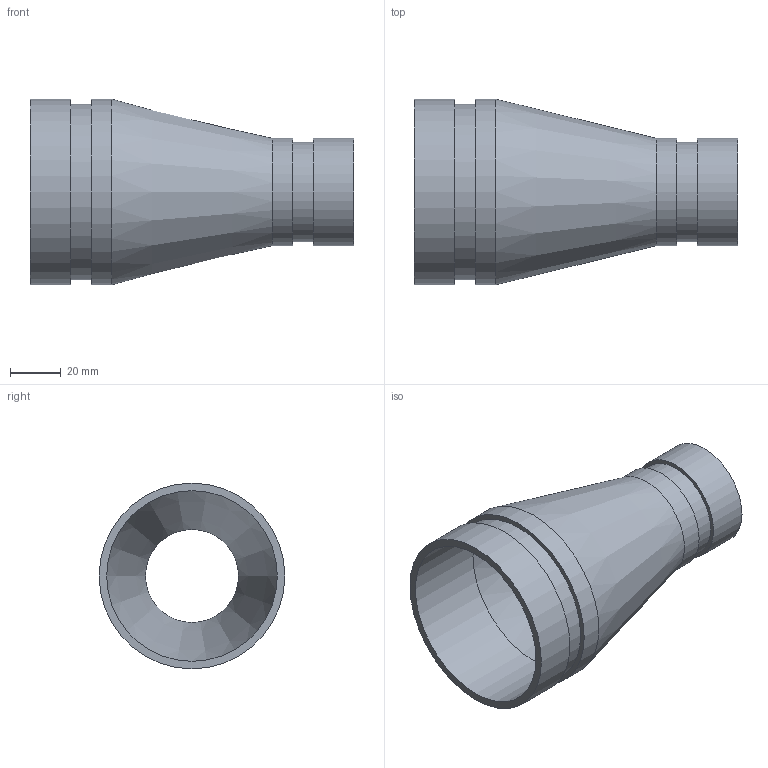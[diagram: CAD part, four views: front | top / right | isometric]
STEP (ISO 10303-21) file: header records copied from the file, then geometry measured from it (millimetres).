
FILE_DESCRIPTION(/* description */ ('VIC REDUCER CONCENTRIC No 450-SS','CAx-IF Rec.Pracs.---Representation and Presentation of Product Manufacturing Information (PMI)---4.0---2014-10-13'),/* implementation_level */ '2;1');
FILE_NAME(/* name */ 'C:\Users\kkamble\AppData\Roaming\Autodesk\ApplicationPlugins\Back Up\Victaulic_SS-OGS_Reducer Concentric_Sched 10S_No 450 SS (OGS)\Victaulic_SS-OGS_Reducer Concentric_Sched 10S_No 450 SS (OGS)_02.5x01.25 (65x32).stp',/* time_stamp */ '2020-09-08T12:32:18+05:00',/* author */ ('CORINNE GRAY'),/* organization */ ('Victaulic'),/* preprocessor_version */ 'ST-DEVELOPER v17.2',/* originating_system */ 'Autodesk Inventor 2019',/* authorisation */ '');
FILE_SCHEMA (('AP242_MANAGED_MODEL_BASED_3D_ENGINEERING_MIM_LF { 1 0 10303 442 1 1 4 }'));
Length unit declared in the file: inch
Products named in the file (1): 450 SS-02.5x01.25
Bounding box: 127 x 73.03 x 73.03 mm (x, y, z)
Volume: 58349.7 mm3; surface area: 46393.9 mm2
Topology: 1 solids, 1 shells, 16 faces, 42 edges, 32 vertices
Faces by surface type: cylinder 8, plane 6, cone 2
Full cylindrical faces by diameter (mm): 36.576 x1, 38.989 x1, 42.164 x2, 67.056 x1, 69.088 x1, 73.025 x2
Entity records: 686 total; most frequent: DIRECTION 134, CARTESIAN_POINT 108, ORIENTED_EDGE 84, AXIS2_PLACEMENT_3D 62, EDGE_CURVE 42, CIRCLE 32, VERTEX_POINT 32, EDGE_LOOP 22
